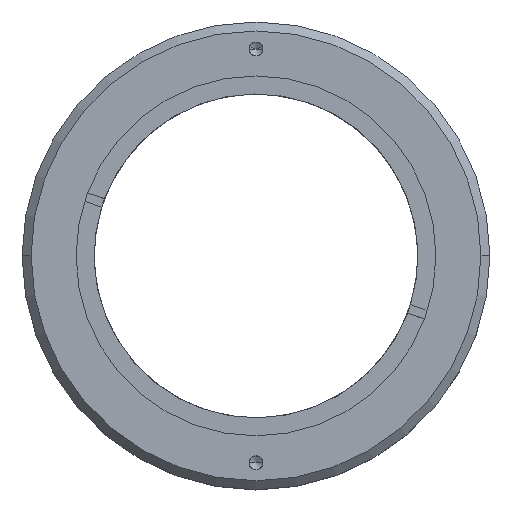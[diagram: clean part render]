
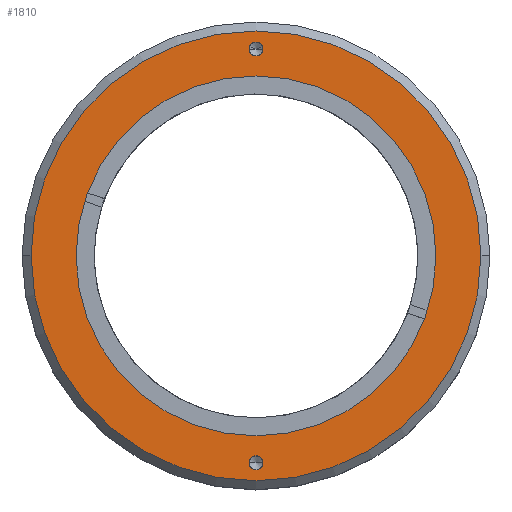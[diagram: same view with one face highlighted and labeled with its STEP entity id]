
A CAD part, top view. The second image highlights one B-rep face of the part: STEP entity #1810.
In plain terms, the highlighted planar face has unit normal (0, 0, 1).
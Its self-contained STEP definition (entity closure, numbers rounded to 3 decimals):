
#146 = CARTESIAN_POINT ( 'NONE',  ( -28.119, -2.293, 59.5 ) ) ;
#212 = CARTESIAN_POINT ( 'NONE',  ( -8.119, -2.293, 59.5 ) ) ;
#428 = DIRECTION ( 'NONE',  ( 0., 0., 1. ) ) ;
#431 = VERTEX_POINT ( 'NONE', #3336 ) ;
#518 = EDGE_LOOP ( 'NONE', ( #3556, #2050 ) ) ;
#540 = CARTESIAN_POINT ( 'NONE',  ( -8.119, -25.293, 59.5 ) ) ;
#550 = EDGE_CURVE ( 'NONE', #770, #3302, #4349, .T. ) ;
#639 = CIRCLE ( 'NONE', #760, 20. ) ;
#682 = AXIS2_PLACEMENT_3D ( 'NONE', #5825, #2511, #6913 ) ;
#760 = AXIS2_PLACEMENT_3D ( 'NONE', #212, #5704, #837 ) ;
#770 = VERTEX_POINT ( 'NONE', #5123 ) ;
#837 = DIRECTION ( 'NONE',  ( 1., 0., 0. ) ) ;
#1173 = CARTESIAN_POINT ( 'NONE',  ( -8.119, -2.293, 59.5 ) ) ;
#1189 = EDGE_LOOP ( 'NONE', ( #3238, #3004 ) ) ;
#1281 = CARTESIAN_POINT ( 'NONE',  ( -8.119, -2.293, 59.5 ) ) ;
#1417 = VERTEX_POINT ( 'NONE', #3359 ) ;
#1734 = CARTESIAN_POINT ( 'NONE',  ( -8.119, 20.707, 59.5 ) ) ;
#1810 = ADVANCED_FACE ( 'NONE', ( #6275, #2992, #6757, #3486 ), #5644, .T. ) ;
#1932 = CIRCLE ( 'NONE', #4774, 0.775 ) ;
#1984 = AXIS2_PLACEMENT_3D ( 'NONE', #6784, #2948, #6168 ) ;
#2031 = EDGE_CURVE ( 'NONE', #3536, #6732, #639, .T. ) ;
#2050 = ORIENTED_EDGE ( 'NONE', *, *, #550, .T. ) ;
#2120 = CARTESIAN_POINT ( 'NONE',  ( -7.344, 20.707, 59.5 ) ) ;
#2320 = EDGE_CURVE ( 'NONE', #4861, #5381, #3845, .T. ) ;
#2511 = DIRECTION ( 'NONE',  ( 0., 0., 1. ) ) ;
#2601 = DIRECTION ( 'NONE',  ( 1., 0., 0. ) ) ;
#2637 = CARTESIAN_POINT ( 'NONE',  ( -8.119, -2.293, 59.5 ) ) ;
#2718 = CIRCLE ( 'NONE', #6687, 20. ) ;
#2751 = ORIENTED_EDGE ( 'NONE', *, *, #2320, .F. ) ;
#2948 = DIRECTION ( 'NONE',  ( 0., 0., 1. ) ) ;
#2992 = FACE_BOUND ( 'NONE', #3598, .T. ) ;
#3004 = ORIENTED_EDGE ( 'NONE', *, *, #4117, .F. ) ;
#3238 = ORIENTED_EDGE ( 'NONE', *, *, #2031, .F. ) ;
#3246 = CIRCLE ( 'NONE', #6404, 0.775 ) ;
#3249 = DIRECTION ( 'NONE',  ( 1., 0., 0. ) ) ;
#3302 = VERTEX_POINT ( 'NONE', #4428 ) ;
#3305 = DIRECTION ( 'NONE',  ( 0., 0., 1. ) ) ;
#3336 = CARTESIAN_POINT ( 'NONE',  ( -7.344, -25.293, 59.5 ) ) ;
#3348 = DIRECTION ( 'NONE',  ( 0., 0., 1. ) ) ;
#3359 = CARTESIAN_POINT ( 'NONE',  ( -8.894, -25.293, 59.5 ) ) ;
#3486 = FACE_BOUND ( 'NONE', #1189, .T. ) ;
#3536 = VERTEX_POINT ( 'NONE', #4275 ) ;
#3556 = ORIENTED_EDGE ( 'NONE', *, *, #6756, .T. ) ;
#3598 = EDGE_LOOP ( 'NONE', ( #3868, #4445 ) ) ;
#3617 = CARTESIAN_POINT ( 'NONE',  ( -8.119, -25.293, 59.5 ) ) ;
#3845 = CIRCLE ( 'NONE', #4291, 0.775 ) ;
#3868 = ORIENTED_EDGE ( 'NONE', *, *, #4859, .F. ) ;
#4098 = DIRECTION ( 'NONE',  ( 1., 0., 0. ) ) ;
#4117 = EDGE_CURVE ( 'NONE', #6732, #3536, #2718, .T. ) ;
#4129 = DIRECTION ( 'NONE',  ( 0., 0., 1. ) ) ;
#4147 = CIRCLE ( 'NONE', #1984, 25. ) ;
#4241 = EDGE_LOOP ( 'NONE', ( #2751, #6727 ) ) ;
#4275 = CARTESIAN_POINT ( 'NONE',  ( 11.881, -2.293, 59.5 ) ) ;
#4291 = AXIS2_PLACEMENT_3D ( 'NONE', #1734, #3305, #5985 ) ;
#4349 = CIRCLE ( 'NONE', #5693, 25. ) ;
#4428 = CARTESIAN_POINT ( 'NONE',  ( -33.119, -2.293, 59.5 ) ) ;
#4439 = CIRCLE ( 'NONE', #682, 0.775 ) ;
#4445 = ORIENTED_EDGE ( 'NONE', *, *, #7022, .F. ) ;
#4774 = AXIS2_PLACEMENT_3D ( 'NONE', #3617, #5286, #5767 ) ;
#4859 = EDGE_CURVE ( 'NONE', #431, #1417, #1932, .T. ) ;
#4861 = VERTEX_POINT ( 'NONE', #2120 ) ;
#4892 = DIRECTION ( 'NONE',  ( 0., 0., 1. ) ) ;
#4996 = CARTESIAN_POINT ( 'NONE',  ( -8.894, 20.707, 59.5 ) ) ;
#5123 = CARTESIAN_POINT ( 'NONE',  ( 16.881, -2.293, 59.5 ) ) ;
#5235 = EDGE_CURVE ( 'NONE', #5381, #4861, #4439, .T. ) ;
#5286 = DIRECTION ( 'NONE',  ( 0., 0., 1. ) ) ;
#5381 = VERTEX_POINT ( 'NONE', #4996 ) ;
#5511 = DIRECTION ( 'NONE',  ( 1., 0., 0. ) ) ;
#5521 = AXIS2_PLACEMENT_3D ( 'NONE', #1281, #4129, #4098 ) ;
#5644 = PLANE ( 'NONE',  #5521 ) ;
#5693 = AXIS2_PLACEMENT_3D ( 'NONE', #2637, #428, #2601 ) ;
#5704 = DIRECTION ( 'NONE',  ( 0., 0., 1. ) ) ;
#5767 = DIRECTION ( 'NONE',  ( 1., 0., 0. ) ) ;
#5825 = CARTESIAN_POINT ( 'NONE',  ( -8.119, 20.707, 59.5 ) ) ;
#5985 = DIRECTION ( 'NONE',  ( 1., 0., 0. ) ) ;
#6168 = DIRECTION ( 'NONE',  ( 1., 0., 0. ) ) ;
#6275 = FACE_BOUND ( 'NONE', #4241, .T. ) ;
#6404 = AXIS2_PLACEMENT_3D ( 'NONE', #540, #4892, #3249 ) ;
#6687 = AXIS2_PLACEMENT_3D ( 'NONE', #1173, #3348, #5511 ) ;
#6727 = ORIENTED_EDGE ( 'NONE', *, *, #5235, .F. ) ;
#6732 = VERTEX_POINT ( 'NONE', #146 ) ;
#6756 = EDGE_CURVE ( 'NONE', #3302, #770, #4147, .T. ) ;
#6757 = FACE_OUTER_BOUND ( 'NONE', #518, .T. ) ;
#6784 = CARTESIAN_POINT ( 'NONE',  ( -8.119, -2.293, 59.5 ) ) ;
#6913 = DIRECTION ( 'NONE',  ( 1., 0., 0. ) ) ;
#7022 = EDGE_CURVE ( 'NONE', #1417, #431, #3246, .T. ) ;
